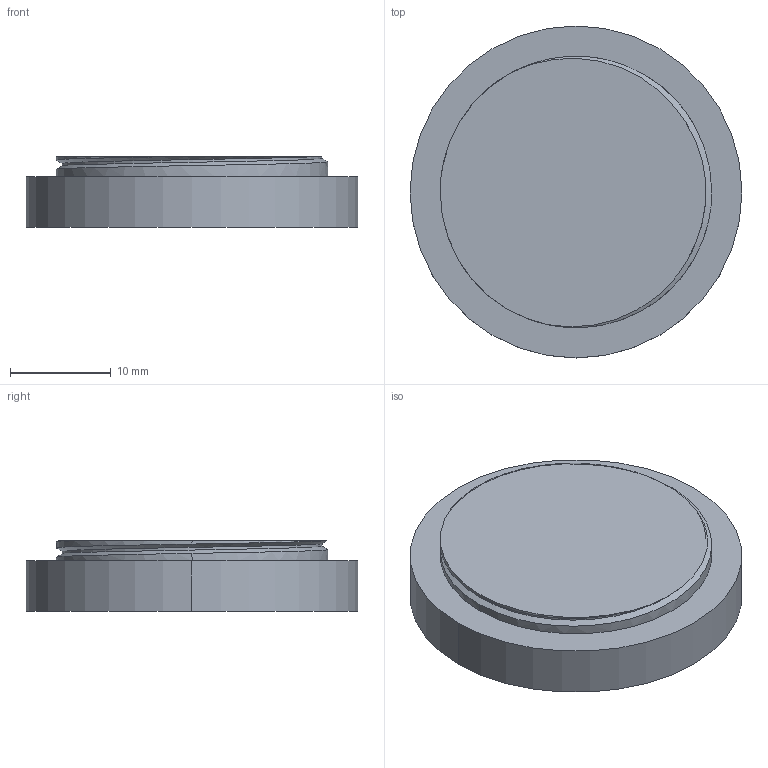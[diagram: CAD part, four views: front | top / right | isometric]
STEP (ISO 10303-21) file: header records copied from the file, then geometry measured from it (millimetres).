
FILE_DESCRIPTION (( 'STEP AP214' ), '1' );
FILE_NAME ('噩芛裔.STEP', '2024-11-09T12:57:09', ( '' ), ( '' ), 'SwSTEP 2.0', 'SolidWorks 2024', '' );
FILE_SCHEMA (( 'AUTOMOTIVE_DESIGN' ));
Length unit declared in the file: millimetre
Products named in the file (1): 镜头盖
Bounding box: 33 x 33 x 7 mm (x, y, z)
Volume: 5392.5 mm3; surface area: 2434.1 mm2
Topology: 1 solids, 1 shells, 13 faces, 28 edges, 18 vertices
Faces by surface type: cylinder 6, plane 4, bspline 3
Entity records: 634 total; most frequent: CARTESIAN_POINT 364, ORIENTED_EDGE 56, DIRECTION 43, EDGE_CURVE 28, VERTEX_POINT 18, AXIS2_PLACEMENT_3D 17, EDGE_LOOP 14, ADVANCED_FACE 13
